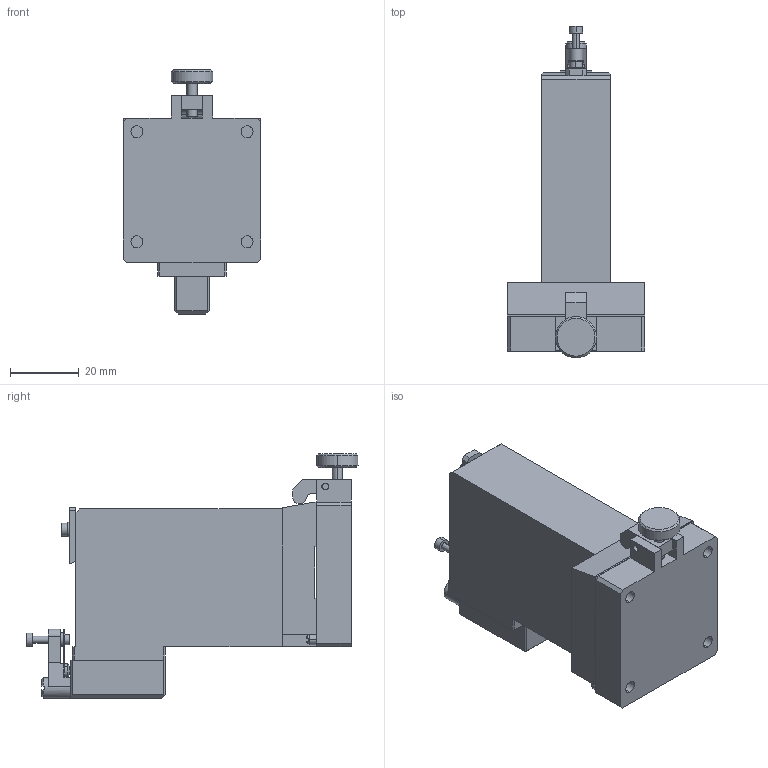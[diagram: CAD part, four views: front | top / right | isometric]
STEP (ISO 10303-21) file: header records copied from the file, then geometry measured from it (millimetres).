
FILE_DESCRIPTION (( 'STEP AP203' ), '1' );
FILE_NAME ('E410-20N.STEP', '2023-01-18T07:36:52', ( '' ), ( '' ), 'SwSTEP 2.0', 'SolidWorks 2017', '' );
FILE_SCHEMA (( 'CONFIG_CONTROL_DESIGN' ));
Length unit declared in the file: millimetre
Products named in the file (16): E410-20N-prt2; E410-20N-prt13; E410-20N-prt3; E410-20N; E410-20N-prt6; E410-20N-prt10; E410-20N-prt0; E410-20N-prt5; E410-20N-prt1; E410-20N-prt7; E410-20N-prt11; E410-20N-prt14; E410-20N-prt9; E410-20N-prt12; E410-20N-prt4; E410-20N-prt8
Assembly tree (15 placements, depth 2):
  E410-20N
    E410-20N-prt0
    E410-20N-prt1
    E410-20N-prt2
    E410-20N-prt3
    E410-20N-prt4
    E410-20N-prt5
    E410-20N-prt6
    E410-20N-prt7
    E410-20N-prt8
    E410-20N-prt9
    E410-20N-prt10
    E410-20N-prt11
    E410-20N-prt12
    E410-20N-prt13
    E410-20N-prt14
Bounding box: 40 x 96.5 x 71 mm (x, y, z)
Volume: 83905.4 mm3; surface area: 26448.4 mm2
Topology: 15 solids, 29 shells, 1019 faces, 2294 edges, 1353 vertices
Faces by surface type: plane 460, cylinder 276, bspline 249, cone 18, torus 12, sphere 4
Entity records: 31307 total; most frequent: CARTESIAN_POINT 7663, DIRECTION 4652, ORIENTED_EDGE 4468, EDGE_CURVE 2234, AXIS2_PLACEMENT_3D 1791, VERTEX_POINT 1353, EDGE_LOOP 1161, VECTOR 1070
